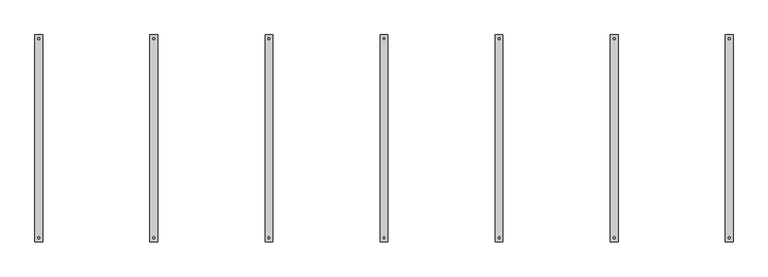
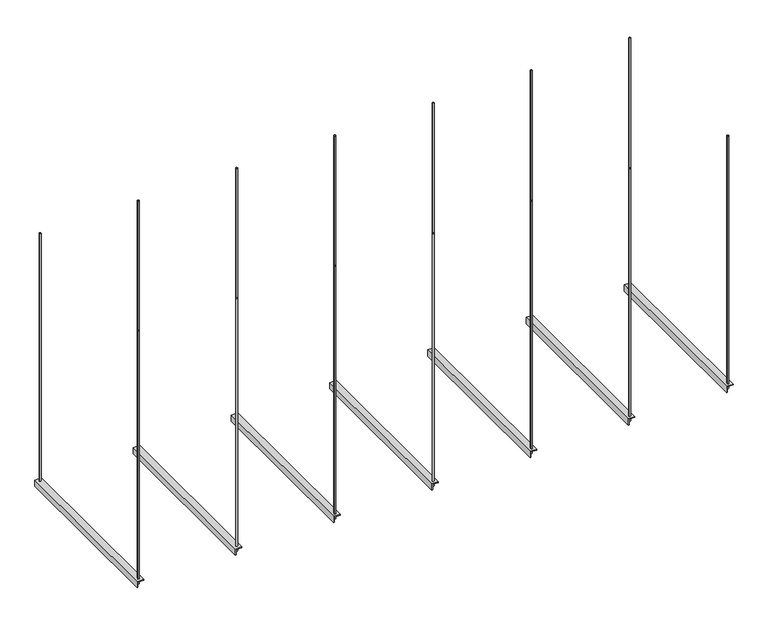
"""IFC4 building model written with IfcOpenShell, lengths in millimetres: damper geometry, 2015_Cuelgue-para-conductos-genérico : Cuelgue de conducto genérico."""

from ifc_helpers import new_model, si_unit, point, frame, frame_2d, origin, place, context, project, spatial, polyline, circle_curve, trimmed, segment, composite_curve, outline, extrude, source, transform, mapped, element, save


def damper_615b383d(model_context):
    return source(origin(), model_context, "Body", "SweptSolid", [
        extrude(outline(composite_curve([segment(trimmed(circle_curve(frame_2d((3600.0, 520.0)), 5.0), [point((3595.0, 520.0))], [point((3605.0, 520.0))], False, "CARTESIAN"), True, "CONTINUOUS"), segment(trimmed(circle_curve(frame_2d((3600.0, 520.0)), 5.0), [point((3605.0, 520.0))], [point((3595.0, 520.0))], False, "CARTESIAN"), True, "CONTINUOUS")], self_intersect=False)), frame((0.0, 0.0, -30.0), z_axis=(0.0, 0.0, 1.0), x_axis=(1.0, 0.0, 0.0)), (0.0, 0.0, 1.0), 1630.0),
        extrude(outline(composite_curve([segment(trimmed(circle_curve(frame_2d((3600.0, -520.0)), 5.0), [point((3595.0, -520.0))], [point((3605.0, -520.0))], False, "CARTESIAN"), True, "CONTINUOUS"), segment(trimmed(circle_curve(frame_2d((3600.0, -520.0)), 5.0), [point((3605.0, -520.0))], [point((3595.0, -520.0))], False, "CARTESIAN"), True, "CONTINUOUS")], self_intersect=False)), frame((0.0, 0.0, -30.0), z_axis=(0.0, 0.0, 1.0), x_axis=(1.0, 0.0, 0.0)), (0.0, 0.0, 1.0), 1630.0),
        extrude(outline(polyline([(0.0, 3580.0), (-40.0, 3580.0), (-40.0, 3585.0), (-5.0, 3585.0), (-5.0, 3620.0), (0.0, 3620.0), (0.0, 3580.0)])), frame((0.0, -540.0, 0.0), z_axis=(0.0, 1.0, 0.0), x_axis=(0.0, 0.0, 1.0)), (0.0, 0.0, 1.0), 1080.0),
        extrude(outline(composite_curve([segment(trimmed(circle_curve(frame_2d((3000.0, 520.0)), 5.0), [point((2995.0, 520.0))], [point((3005.0, 520.0))], False, "CARTESIAN"), True, "CONTINUOUS"), segment(trimmed(circle_curve(frame_2d((3000.0, 520.0)), 5.0), [point((3005.0, 520.0))], [point((2995.0, 520.0))], False, "CARTESIAN"), True, "CONTINUOUS")], self_intersect=False)), frame((0.0, 0.0, -30.0), z_axis=(0.0, 0.0, 1.0), x_axis=(1.0, 0.0, 0.0)), (0.0, 0.0, 1.0), 1630.0),
        extrude(outline(composite_curve([segment(trimmed(circle_curve(frame_2d((3000.0, -520.0)), 5.0), [point((2995.0, -520.0))], [point((3005.0, -520.0))], False, "CARTESIAN"), True, "CONTINUOUS"), segment(trimmed(circle_curve(frame_2d((3000.0, -520.0)), 5.0), [point((3005.0, -520.0))], [point((2995.0, -520.0))], False, "CARTESIAN"), True, "CONTINUOUS")], self_intersect=False)), frame((0.0, 0.0, -30.0), z_axis=(0.0, 0.0, 1.0), x_axis=(1.0, 0.0, 0.0)), (0.0, 0.0, 1.0), 1630.0),
        extrude(outline(polyline([(0.0, 2980.0), (-40.0, 2980.0), (-40.0, 2985.0), (-5.0, 2985.0), (-5.0, 3020.0), (0.0, 3020.0), (0.0, 2980.0)])), frame((0.0, -540.0, 0.0), z_axis=(0.0, 1.0, 0.0), x_axis=(0.0, 0.0, 1.0)), (0.0, 0.0, 1.0), 1080.0),
        extrude(outline(composite_curve([segment(trimmed(circle_curve(frame_2d((2400.0, 520.0)), 5.0), [point((2395.0, 520.0))], [point((2405.0, 520.0))], False, "CARTESIAN"), True, "CONTINUOUS"), segment(trimmed(circle_curve(frame_2d((2400.0, 520.0)), 5.0), [point((2405.0, 520.0))], [point((2395.0, 520.0))], False, "CARTESIAN"), True, "CONTINUOUS")], self_intersect=False)), frame((0.0, 0.0, -30.0), z_axis=(0.0, 0.0, 1.0), x_axis=(1.0, 0.0, 0.0)), (0.0, 0.0, 1.0), 1630.0),
        extrude(outline(composite_curve([segment(trimmed(circle_curve(frame_2d((2400.0, -520.0)), 5.0), [point((2395.0, -520.0))], [point((2405.0, -520.0))], False, "CARTESIAN"), True, "CONTINUOUS"), segment(trimmed(circle_curve(frame_2d((2400.0, -520.0)), 5.0), [point((2405.0, -520.0))], [point((2395.0, -520.0))], False, "CARTESIAN"), True, "CONTINUOUS")], self_intersect=False)), frame((0.0, 0.0, -30.0), z_axis=(0.0, 0.0, 1.0), x_axis=(1.0, 0.0, 0.0)), (0.0, 0.0, 1.0), 1630.0),
        extrude(outline(polyline([(0.0, 2380.0), (-40.0, 2380.0), (-40.0, 2385.0), (-5.0, 2385.0), (-5.0, 2420.0), (0.0, 2420.0), (0.0, 2380.0)])), frame((0.0, -540.0, 0.0), z_axis=(0.0, 1.0, 0.0), x_axis=(0.0, 0.0, 1.0)), (0.0, 0.0, 1.0), 1080.0),
        extrude(outline(composite_curve([segment(trimmed(circle_curve(frame_2d((1800.0, 520.0)), 5.0), [point((1795.0, 520.0))], [point((1805.0, 520.0))], False, "CARTESIAN"), True, "CONTINUOUS"), segment(trimmed(circle_curve(frame_2d((1800.0, 520.0)), 5.0), [point((1805.0, 520.0))], [point((1795.0, 520.0))], False, "CARTESIAN"), True, "CONTINUOUS")], self_intersect=False)), frame((0.0, 0.0, -30.0), z_axis=(0.0, 0.0, 1.0), x_axis=(1.0, 0.0, 0.0)), (0.0, 0.0, 1.0), 1630.0),
        extrude(outline(composite_curve([segment(trimmed(circle_curve(frame_2d((1800.0, -520.0)), 5.0), [point((1795.0, -520.0))], [point((1805.0, -520.0))], False, "CARTESIAN"), True, "CONTINUOUS"), segment(trimmed(circle_curve(frame_2d((1800.0, -520.0)), 5.0), [point((1805.0, -520.0))], [point((1795.0, -520.0))], False, "CARTESIAN"), True, "CONTINUOUS")], self_intersect=False)), frame((0.0, 0.0, -30.0), z_axis=(0.0, 0.0, 1.0), x_axis=(1.0, 0.0, 0.0)), (0.0, 0.0, 1.0), 1630.0),
        extrude(outline(polyline([(0.0, 1780.0), (-40.0, 1780.0), (-40.0, 1785.0), (-5.0, 1785.0), (-5.0, 1820.0), (0.0, 1820.0), (0.0, 1780.0)])), frame((0.0, -540.0, 0.0), z_axis=(0.0, 1.0, 0.0), x_axis=(0.0, 0.0, 1.0)), (0.0, 0.0, 1.0), 1080.0),
        extrude(outline(composite_curve([segment(trimmed(circle_curve(frame_2d((1200.0, 520.0)), 5.0), [point((1195.0, 520.0))], [point((1205.0, 520.0))], False, "CARTESIAN"), True, "CONTINUOUS"), segment(trimmed(circle_curve(frame_2d((1200.0, 520.0)), 5.0), [point((1205.0, 520.0))], [point((1195.0, 520.0))], False, "CARTESIAN"), True, "CONTINUOUS")], self_intersect=False)), frame((0.0, 0.0, -30.0), z_axis=(0.0, 0.0, 1.0), x_axis=(1.0, 0.0, 0.0)), (0.0, 0.0, 1.0), 1630.0),
        extrude(outline(composite_curve([segment(trimmed(circle_curve(frame_2d((1200.0, -520.0)), 5.0), [point((1195.0, -520.0))], [point((1205.0, -520.0))], False, "CARTESIAN"), True, "CONTINUOUS"), segment(trimmed(circle_curve(frame_2d((1200.0, -520.0)), 5.0), [point((1205.0, -520.0))], [point((1195.0, -520.0))], False, "CARTESIAN"), True, "CONTINUOUS")], self_intersect=False)), frame((0.0, 0.0, -30.0), z_axis=(0.0, 0.0, 1.0), x_axis=(1.0, 0.0, 0.0)), (0.0, 0.0, 1.0), 1630.0),
        extrude(outline(polyline([(0.0, 1180.0), (-40.0, 1180.0), (-40.0, 1185.0), (-5.0, 1185.0), (-5.0, 1220.0), (0.0, 1220.0), (0.0, 1180.0)])), frame((0.0, -540.0, 0.0), z_axis=(0.0, 1.0, 0.0), x_axis=(0.0, 0.0, 1.0)), (0.0, 0.0, 1.0), 1080.0),
        extrude(outline(composite_curve([segment(trimmed(circle_curve(frame_2d((600.0, 520.0)), 5.0), [point((595.0, 520.0))], [point((605.0, 520.0))], False, "CARTESIAN"), True, "CONTINUOUS"), segment(trimmed(circle_curve(frame_2d((600.0, 520.0)), 5.0), [point((605.0, 520.0))], [point((595.0, 520.0))], False, "CARTESIAN"), True, "CONTINUOUS")], self_intersect=False)), frame((0.0, 0.0, -30.0), z_axis=(0.0, 0.0, 1.0), x_axis=(1.0, 0.0, 0.0)), (0.0, 0.0, 1.0), 1630.0),
        extrude(outline(composite_curve([segment(trimmed(circle_curve(frame_2d((600.0, -520.0)), 5.0), [point((595.0, -520.0))], [point((605.0, -520.0))], False, "CARTESIAN"), True, "CONTINUOUS"), segment(trimmed(circle_curve(frame_2d((600.0, -520.0)), 5.0), [point((605.0, -520.0))], [point((595.0, -520.0))], False, "CARTESIAN"), True, "CONTINUOUS")], self_intersect=False)), frame((0.0, 0.0, -30.0), z_axis=(0.0, 0.0, 1.0), x_axis=(1.0, 0.0, 0.0)), (0.0, 0.0, 1.0), 1630.0),
        extrude(outline(polyline([(0.0, 580.0), (-40.0, 580.0), (-40.0, 585.0), (-5.0, 585.0), (-5.0, 620.0), (0.0, 620.0), (0.0, 580.0)])), frame((0.0, -540.0, 0.0), z_axis=(0.0, 1.0, 0.0), x_axis=(0.0, 0.0, 1.0)), (0.0, 0.0, 1.0), 1080.0),
        extrude(outline(composite_curve([segment(trimmed(circle_curve(frame_2d((0.0, 520.0)), 5.0), [point((-5.0, 520.0))], [point((5.0, 520.0))], False, "CARTESIAN"), True, "CONTINUOUS"), segment(trimmed(circle_curve(frame_2d((0.0, 520.0)), 5.0), [point((5.0, 520.0))], [point((-5.0, 520.0))], False, "CARTESIAN"), True, "CONTINUOUS")], self_intersect=False)), frame((0.0, 0.0, -30.0), z_axis=(0.0, 0.0, 1.0), x_axis=(1.0, 0.0, 0.0)), (0.0, 0.0, 1.0), 1630.0),
        extrude(outline(composite_curve([segment(trimmed(circle_curve(frame_2d((0.0, -520.0)), 5.0), [point((-5.0, -520.0))], [point((5.0, -520.0))], False, "CARTESIAN"), True, "CONTINUOUS"), segment(trimmed(circle_curve(frame_2d((0.0, -520.0)), 5.0), [point((5.0, -520.0))], [point((-5.0, -520.0))], False, "CARTESIAN"), True, "CONTINUOUS")], self_intersect=False)), frame((0.0, 0.0, -30.0), z_axis=(0.0, 0.0, 1.0), x_axis=(1.0, 0.0, 0.0)), (0.0, 0.0, 1.0), 1630.0),
        extrude(outline(polyline([(0.0, -20.0), (-40.0, -20.0), (-40.0, -15.0), (-5.0, -15.0), (-5.0, 20.0), (0.0, 20.0), (0.0, -20.0)])), frame((0.0, -540.0, 0.0), z_axis=(0.0, 1.0, 0.0), x_axis=(0.0, 0.0, 1.0)), (0.0, 0.0, 1.0), 1080.0),
    ])


if __name__ == "__main__":
    model = new_model("IFC4")
    model_context = context("Model", 3, world=origin())
    ifc_project = project(units=[si_unit("LENGTHUNIT", "METRE", prefix="MILLI")], contexts=[model_context])
    site = spatial("IfcSite", under=ifc_project)
    building = spatial("IfcBuilding", under=site)
    placement = place(None, origin())
    damper_shape = damper_615b383d(model_context)
    element("IfcDamper", 1, ObjectType="2015_Cuelgue-para-conductos-genérico : Cuelgue de conducto genérico", at=placement, inside=building, context=model_context, shape_type="MappedRepresentation", body=[
        mapped(damper_shape, transform((0.0, 0.0, 0.0), x_axis=(1.0, 0.0, 0.0), y_axis=(0.0, 1.0, 0.0), z_axis=(0.0, 0.0, 1.0))),
    ])
    save(model, "model.ifc")
